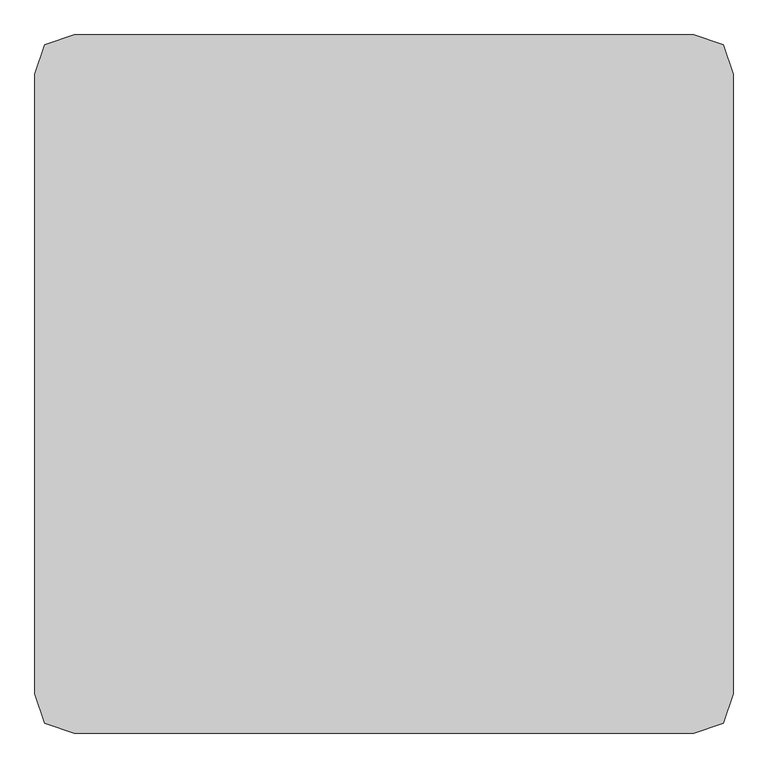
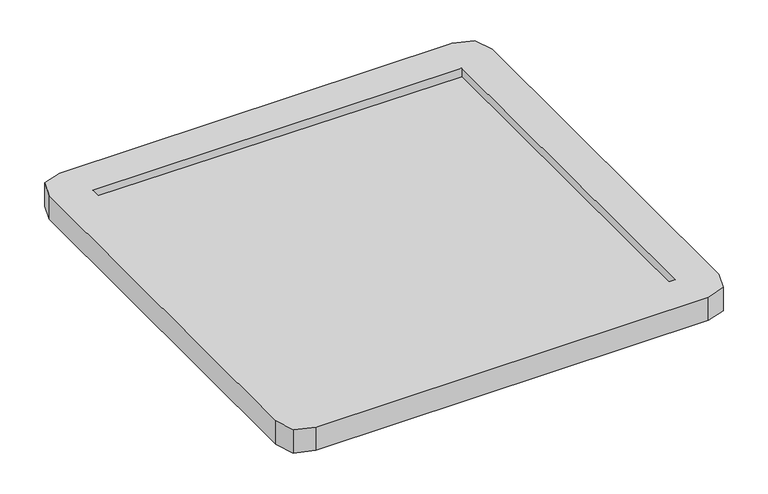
"""IFC4 building model written with IfcOpenShell, lengths in millimetres: geographic element geometry, Enscape AssetDefinition - Flowerbed 002 : Enscape AssetDefinition - Flowerbed 002."""

from ifc_helpers import new_model, si_unit, origin, place, context, project, spatial, triangles, source, transform, mapped, element, save


def geographic_element_63926694(model_context):
    return source(origin(), model_context, "Body", "Tessellation", [
        triangles([(594.4981602, -594.4981602, 0.0), (-542.3378265, 611.6538717, 0.0), (611.6538717, 542.3378265, 0.0), (0.0, 0.0, 0.0), (-542.3378265, -611.6538717, 0.0), (542.3378265, 611.6538717, 0.0), (542.3378265, -611.6538717, 0.0), (-594.4981602, -594.4981602, 0.0), (-594.4981602, -594.4981602, 67.9439678), (-611.6538717, -542.3378265, 67.9439678), (-611.6538717, -542.3378265, 0.0), (542.3378265, -611.6538717, 67.9439678), (-542.3378265, -611.6538717, 67.9439678), (510.0278438, -510.0278438, 44.147655), (-510.0278438, 510.0278438, 67.9439678), (-510.0278438, -510.0278438, 67.9439678), (-510.0278438, -510.0278438, 48.1752844), (-611.6538717, 542.3378265, 0.0), (-611.6538717, 542.3378265, 67.9439678), (-594.4981602, 594.4981602, 67.9439678), (-542.3378265, 611.6538717, 67.9439678), (-594.4981602, 594.4981602, 0.0), (542.3378265, 611.6538717, 67.9439678), (594.4981602, 594.4981602, 67.9439678), (594.4981602, 594.4981602, 0.0), (611.6538717, 542.3378265, 67.9439678), (510.0278438, -510.0278438, 67.9439678), (611.6538717, -542.3378265, 67.9439678), (611.6538717, -542.3378265, 0.0), (594.4981602, -594.4981602, 67.9439678), (510.0278438, 510.0278438, 42.7802785), (510.0278438, 510.0278438, 67.9439678), (-510.0278438, 510.0278438, 48.2205759)], [[12, 7, 1], [32, 15, 33], [17, 33, 15], [33, 31, 32], [31, 33, 17], [17, 14, 31], [31, 14, 27], [27, 32, 31], [1, 30, 12], [12, 30, 27], [30, 1, 29], [29, 28, 30], [27, 30, 28], [32, 27, 28], [28, 29, 3], [28, 26, 32], [3, 26, 28], [26, 3, 25], [25, 24, 26], [26, 24, 32], [24, 25, 6], [6, 23, 24], [32, 24, 23], [15, 32, 23], [23, 6, 2], [21, 2, 22], [23, 21, 15], [2, 21, 23], [20, 22, 18], [22, 20, 21], [21, 20, 15], [18, 19, 20], [15, 20, 19], [15, 16, 17], [14, 17, 16], [16, 27, 14], [16, 15, 19], [27, 16, 13], [13, 12, 27], [7, 12, 13], [16, 9, 13], [10, 9, 16], [19, 10, 16], [19, 18, 11], [11, 10, 19], [8, 9, 10], [10, 11, 8], [9, 8, 5], [5, 13, 9], [13, 5, 7], [6, 25, 4], [4, 25, 3], [4, 11, 18], [2, 6, 4], [5, 8, 4], [4, 8, 11], [7, 5, 4], [4, 3, 29], [4, 18, 22], [1, 7, 4], [22, 2, 4], [4, 29, 1]]),
    ])


if __name__ == "__main__":
    model = new_model("IFC4")
    model_context = context("Model", 3, world=origin())
    ifc_project = project(units=[si_unit("LENGTHUNIT", "METRE", prefix="MILLI")], contexts=[model_context])
    site = spatial("IfcSite", under=ifc_project)
    building = spatial("IfcBuilding", under=site)
    placement = place(None, origin())
    geographic_element_shape = geographic_element_63926694(model_context)
    element("IfcGeographicElement", 1, ObjectType="Enscape AssetDefinition - Flowerbed 002 : Enscape AssetDefinition - Flowerbed 002", at=placement, inside=building, context=model_context, shape_type="MappedRepresentation", body=[
        mapped(geographic_element_shape, transform((0.0, 0.0, 0.0), x_axis=(1.0, 0.0, 0.0), y_axis=(0.0, 1.0, 0.0), z_axis=(0.0, 0.0, 1.0))),
    ])
    save(model, "model.ifc")
